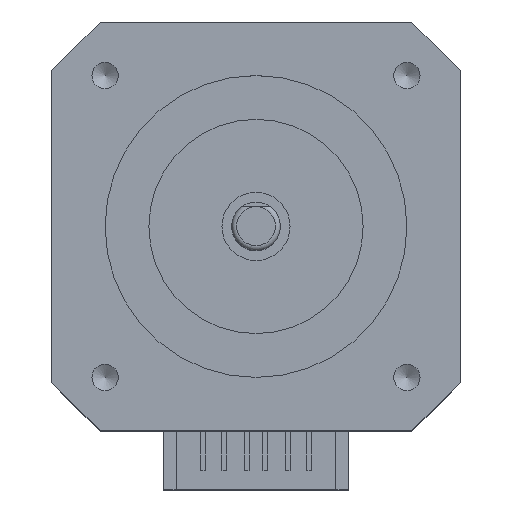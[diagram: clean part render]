
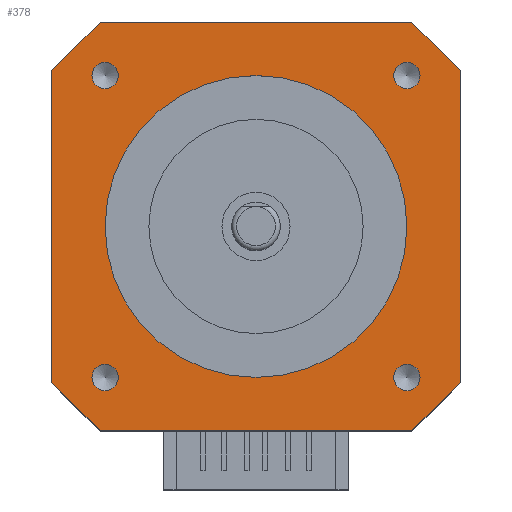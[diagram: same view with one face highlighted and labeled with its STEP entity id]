
A CAD part, top view. The second image highlights one B-rep face of the part: STEP entity #378.
In plain terms, the highlighted planar face has unit normal (0, 0, 1).
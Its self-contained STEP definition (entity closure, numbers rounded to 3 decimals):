
#118=PLANE('',#2880);
#378=ADVANCED_FACE('',(#1198,#1199,#1200,#1201,#1202,#1203),#118,.F.);
#631=LINE('',#3997,#946);
#632=LINE('',#4000,#947);
#633=LINE('',#4002,#948);
#634=LINE('',#4004,#949);
#635=LINE('',#4006,#950);
#636=LINE('',#4008,#951);
#637=LINE('',#4010,#952);
#638=LINE('',#4012,#953);
#946=VECTOR('',#3192,1.);
#947=VECTOR('',#3193,1.);
#948=VECTOR('',#3194,1.);
#949=VECTOR('',#3195,1.);
#950=VECTOR('',#3196,1.);
#951=VECTOR('',#3197,1.);
#952=VECTOR('',#3198,1.);
#953=VECTOR('',#3199,1.);
#1198=FACE_BOUND('',#1296,.T.);
#1199=FACE_BOUND('',#1297,.T.);
#1200=FACE_BOUND('',#1298,.T.);
#1201=FACE_BOUND('',#1299,.T.);
#1202=FACE_BOUND('',#1300,.T.);
#1203=FACE_BOUND('',#1301,.T.);
#1296=EDGE_LOOP('',(#1584));
#1297=EDGE_LOOP('',(#1585));
#1298=EDGE_LOOP('',(#1586));
#1299=EDGE_LOOP('',(#1587));
#1300=EDGE_LOOP('',(#1588,#1589,#1590,#1591,#1592,#1593,#1594,#1595));
#1301=EDGE_LOOP('',(#1596));
#1584=ORIENTED_EDGE('',*,*,#2552,.T.);
#1585=ORIENTED_EDGE('',*,*,#2553,.T.);
#1586=ORIENTED_EDGE('',*,*,#2554,.T.);
#1587=ORIENTED_EDGE('',*,*,#2555,.T.);
#1588=ORIENTED_EDGE('',*,*,#2556,.F.);
#1589=ORIENTED_EDGE('',*,*,#2557,.T.);
#1590=ORIENTED_EDGE('',*,*,#2558,.F.);
#1591=ORIENTED_EDGE('',*,*,#2559,.T.);
#1592=ORIENTED_EDGE('',*,*,#2560,.F.);
#1593=ORIENTED_EDGE('',*,*,#2561,.T.);
#1594=ORIENTED_EDGE('',*,*,#2562,.F.);
#1595=ORIENTED_EDGE('',*,*,#2563,.T.);
#1596=ORIENTED_EDGE('',*,*,#2564,.T.);
#2293=VERTEX_POINT('',#3990);
#2294=VERTEX_POINT('',#3992);
#2295=VERTEX_POINT('',#3994);
#2296=VERTEX_POINT('',#3996);
#2297=VERTEX_POINT('',#3998);
#2298=VERTEX_POINT('',#3999);
#2299=VERTEX_POINT('',#4001);
#2300=VERTEX_POINT('',#4003);
#2301=VERTEX_POINT('',#4005);
#2302=VERTEX_POINT('',#4007);
#2303=VERTEX_POINT('',#4009);
#2304=VERTEX_POINT('',#4011);
#2305=VERTEX_POINT('',#4014);
#2552=EDGE_CURVE('',#2293,#2293,#2824,.T.);
#2553=EDGE_CURVE('',#2294,#2294,#2825,.T.);
#2554=EDGE_CURVE('',#2295,#2295,#2826,.T.);
#2555=EDGE_CURVE('',#2296,#2296,#2827,.T.);
#2556=EDGE_CURVE('',#2297,#2298,#631,.T.);
#2557=EDGE_CURVE('',#2297,#2299,#632,.T.);
#2558=EDGE_CURVE('',#2300,#2299,#633,.T.);
#2559=EDGE_CURVE('',#2300,#2301,#634,.T.);
#2560=EDGE_CURVE('',#2302,#2301,#635,.T.);
#2561=EDGE_CURVE('',#2302,#2303,#636,.T.);
#2562=EDGE_CURVE('',#2304,#2303,#637,.T.);
#2563=EDGE_CURVE('',#2304,#2298,#638,.T.);
#2564=EDGE_CURVE('',#2305,#2305,#2828,.T.);
#2824=CIRCLE('',#2875,1.35);
#2825=CIRCLE('',#2876,1.35);
#2826=CIRCLE('',#2877,1.35);
#2827=CIRCLE('',#2878,1.35);
#2828=CIRCLE('',#2879,15.5);
#2875=AXIS2_PLACEMENT_3D('',#3989,#3184,#3185);
#2876=AXIS2_PLACEMENT_3D('',#3991,#3186,#3187);
#2877=AXIS2_PLACEMENT_3D('',#3993,#3188,#3189);
#2878=AXIS2_PLACEMENT_3D('',#3995,#3190,#3191);
#2879=AXIS2_PLACEMENT_3D('',#4013,#3200,#3201);
#2880=AXIS2_PLACEMENT_3D('',#4015,#3202,#3203);
#3184=DIRECTION('',(0.,0.,-1.));
#3185=DIRECTION('',(-1.,0.,0.));
#3186=DIRECTION('',(0.,0.,-1.));
#3187=DIRECTION('',(-1.,0.,0.));
#3188=DIRECTION('',(0.,0.,-1.));
#3189=DIRECTION('',(-1.,0.,0.));
#3190=DIRECTION('',(0.,0.,-1.));
#3191=DIRECTION('',(-1.,0.,0.));
#3192=DIRECTION('',(1.,0.,0.));
#3193=DIRECTION('',(-0.707,-0.707,0.));
#3194=DIRECTION('',(0.,1.,0.));
#3195=DIRECTION('',(0.707,-0.707,0.));
#3196=DIRECTION('',(-1.,0.,0.));
#3197=DIRECTION('',(0.707,0.707,0.));
#3198=DIRECTION('',(0.,-1.,0.));
#3199=DIRECTION('',(-0.707,0.707,0.));
#3200=DIRECTION('',(0.,0.,-1.));
#3201=DIRECTION('',(1.,0.,0.));
#3202=DIRECTION('',(0.,0.,-1.));
#3203=DIRECTION('',(-1.,0.,0.));
#3989=CARTESIAN_POINT('',(15.5,-15.5,0.));
#3990=CARTESIAN_POINT('',(14.15,-15.5,0.));
#3991=CARTESIAN_POINT('',(15.5,15.5,0.));
#3992=CARTESIAN_POINT('',(14.15,15.5,0.));
#3993=CARTESIAN_POINT('',(-15.5,15.5,0.));
#3994=CARTESIAN_POINT('',(-16.85,15.5,0.));
#3995=CARTESIAN_POINT('',(-15.5,-15.5,0.));
#3996=CARTESIAN_POINT('',(-16.85,-15.5,0.));
#3997=CARTESIAN_POINT('',(-21.,21.,0.));
#3998=CARTESIAN_POINT('',(-16.,21.,0.));
#3999=CARTESIAN_POINT('',(16.,21.,0.));
#4000=CARTESIAN_POINT('',(-16.,21.,0.));
#4001=CARTESIAN_POINT('',(-21.,16.,0.));
#4002=CARTESIAN_POINT('',(-21.,-21.,0.));
#4003=CARTESIAN_POINT('',(-21.,-16.,0.));
#4004=CARTESIAN_POINT('',(-21.,-16.,0.));
#4005=CARTESIAN_POINT('',(-16.,-21.,0.));
#4006=CARTESIAN_POINT('',(21.,-21.,0.));
#4007=CARTESIAN_POINT('',(16.,-21.,0.));
#4008=CARTESIAN_POINT('',(16.,-21.,0.));
#4009=CARTESIAN_POINT('',(21.,-16.,0.));
#4010=CARTESIAN_POINT('',(21.,21.,0.));
#4011=CARTESIAN_POINT('',(21.,16.,0.));
#4012=CARTESIAN_POINT('',(21.,16.,0.));
#4013=CARTESIAN_POINT('',(0.,0.,0.));
#4014=CARTESIAN_POINT('',(15.5,0.,0.));
#4015=CARTESIAN_POINT('',(-21.,-21.,0.));
